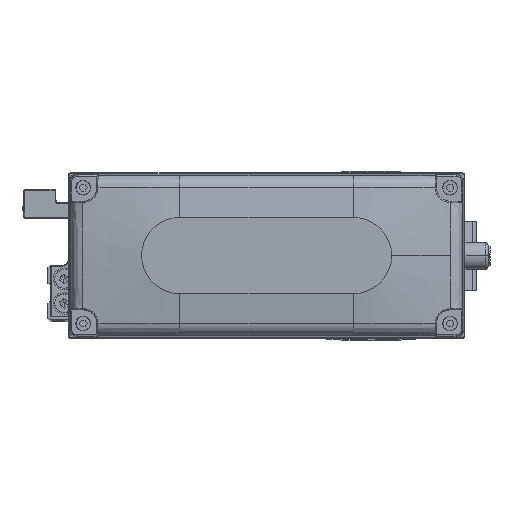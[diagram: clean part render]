
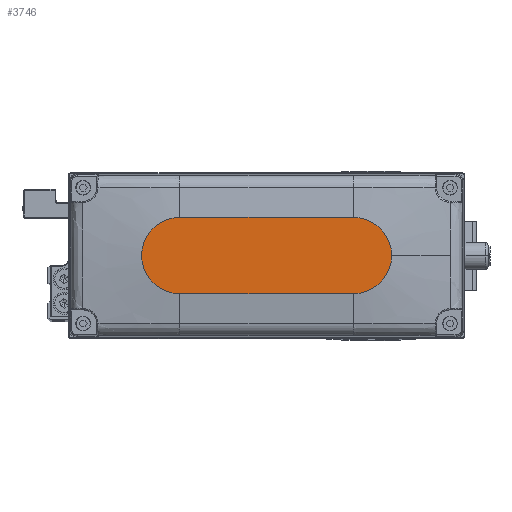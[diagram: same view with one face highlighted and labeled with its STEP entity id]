
A CAD part, top view. The second image highlights one B-rep face of the part: STEP entity #3746.
In plain terms, the highlighted planar face has unit normal (0, 0, 1).
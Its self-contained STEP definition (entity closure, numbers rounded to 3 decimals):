
#888 = CARTESIAN_POINT ( 'NONE',  ( 0., 0., 35. ) ) ;
#1829 = VERTEX_POINT ( 'NONE', #43601 ) ;
#2629 = CARTESIAN_POINT ( 'NONE',  ( -32., -14., 35. ) ) ;
#3746 = ADVANCED_FACE ( 'NONE', ( #18141 ), #31974, .T. ) ;
#4934 = AXIS2_PLACEMENT_3D ( 'NONE', #42917, #11848, #25688 ) ;
#5509 = EDGE_CURVE ( 'NONE', #19724, #10825, #12675, .T. ) ;
#5574 = EDGE_CURVE ( 'NONE', #11713, #19724, #16873, .T. ) ;
#7034 = VERTEX_POINT ( 'NONE', #26594 ) ;
#7967 = DIRECTION ( 'NONE',  ( -1., 0., 0. ) ) ;
#8405 = EDGE_CURVE ( 'NONE', #1829, #7034, #25209, .T. ) ;
#8732 = DIRECTION ( 'NONE',  ( 0., 0., 1. ) ) ;
#8753 = CIRCLE ( 'NONE', #34124, 14. ) ;
#8938 = VECTOR ( 'NONE', #7967, 1000. ) ;
#10825 = VERTEX_POINT ( 'NONE', #11601 ) ;
#11601 = CARTESIAN_POINT ( 'NONE',  ( 46., 0., 35. ) ) ;
#11713 = VERTEX_POINT ( 'NONE', #2629 ) ;
#11848 = DIRECTION ( 'NONE',  ( 0., 0., 1. ) ) ;
#12675 = CIRCLE ( 'NONE', #38022, 14. ) ;
#12803 = DIRECTION ( 'NONE',  ( 0., 0., 1. ) ) ;
#14730 = DIRECTION ( 'NONE',  ( 0., 0., 1. ) ) ;
#15326 = CARTESIAN_POINT ( 'NONE',  ( 32., -14., 35. ) ) ;
#15668 = EDGE_LOOP ( 'NONE', ( #41363, #33588, #34143, #34380, #26226 ) ) ;
#16873 = LINE ( 'NONE', #30708, #33707 ) ;
#18141 = FACE_OUTER_BOUND ( 'NONE', #15668, .T. ) ;
#19724 = VERTEX_POINT ( 'NONE', #15326 ) ;
#19822 = AXIS2_PLACEMENT_3D ( 'NONE', #888, #14730, #28567 ) ;
#22176 = EDGE_CURVE ( 'NONE', #7034, #11713, #8753, .T. ) ;
#22582 = DIRECTION ( 'NONE',  ( 1., 0., 0. ) ) ;
#24513 = CIRCLE ( 'NONE', #4934, 14. ) ;
#25209 = LINE ( 'NONE', #39033, #8938 ) ;
#25688 = DIRECTION ( 'NONE',  ( 1., 0., 0. ) ) ;
#26226 = ORIENTED_EDGE ( 'NONE', *, *, #29814, .T. ) ;
#26594 = CARTESIAN_POINT ( 'NONE',  ( -32., 14., 35. ) ) ;
#26640 = DIRECTION ( 'NONE',  ( 1., 0., 0. ) ) ;
#28567 = DIRECTION ( 'NONE',  ( 1., 0., 0. ) ) ;
#29814 = EDGE_CURVE ( 'NONE', #10825, #1829, #24513, .T. ) ;
#30708 = CARTESIAN_POINT ( 'NONE',  ( -32., -14., 35. ) ) ;
#31974 = PLANE ( 'NONE',  #19822 ) ;
#33588 = ORIENTED_EDGE ( 'NONE', *, *, #22176, .T. ) ;
#33707 = VECTOR ( 'NONE', #44531, 1000. ) ;
#34124 = AXIS2_PLACEMENT_3D ( 'NONE', #39807, #8732, #22582 ) ;
#34143 = ORIENTED_EDGE ( 'NONE', *, *, #5574, .T. ) ;
#34380 = ORIENTED_EDGE ( 'NONE', *, *, #5509, .T. ) ;
#38022 = AXIS2_PLACEMENT_3D ( 'NONE', #43870, #12803, #26640 ) ;
#39033 = CARTESIAN_POINT ( 'NONE',  ( -32., 14., 35. ) ) ;
#39807 = CARTESIAN_POINT ( 'NONE',  ( -32., 0., 35. ) ) ;
#41363 = ORIENTED_EDGE ( 'NONE', *, *, #8405, .T. ) ;
#42917 = CARTESIAN_POINT ( 'NONE',  ( 32., 0., 35. ) ) ;
#43601 = CARTESIAN_POINT ( 'NONE',  ( 32., 14., 35. ) ) ;
#43870 = CARTESIAN_POINT ( 'NONE',  ( 32., 0., 35. ) ) ;
#44531 = DIRECTION ( 'NONE',  ( 1., 0., 0. ) ) ;
